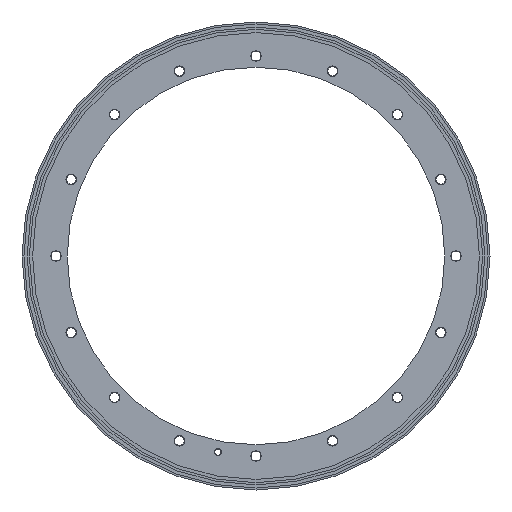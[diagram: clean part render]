
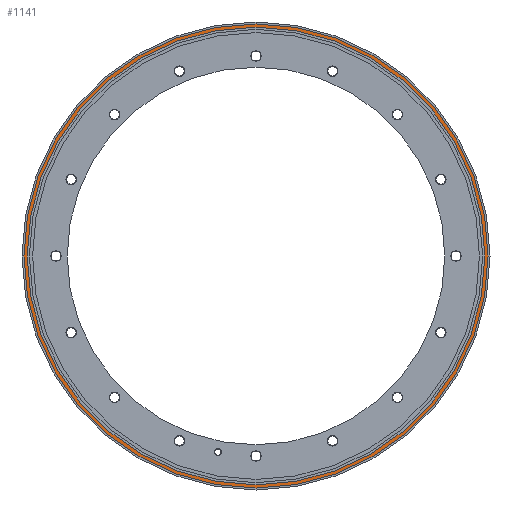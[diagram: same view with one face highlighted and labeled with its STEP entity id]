
A CAD part, front view. The second image highlights one B-rep face of the part: STEP entity #1141.
In plain terms, the highlighted planar face has unit normal (0, -1, 0).
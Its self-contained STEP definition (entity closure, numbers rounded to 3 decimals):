
#31 = ORIENTED_EDGE ( 'NONE', *, *, #7684, .T. ) ;
#133 = DIRECTION ( 'NONE',  ( 0., 0., -1. ) ) ;
#884 = ORIENTED_EDGE ( 'NONE', *, *, #5670, .F. ) ;
#1141 = ADVANCED_FACE ( 'NONE', ( #5465, #1165 ), #10622, .T. ) ;
#1165 = FACE_BOUND ( 'NONE', #9561, .T. ) ;
#1457 = CARTESIAN_POINT ( 'NONE',  ( -76.85, 0.4, -94.45 ) ) ;
#1610 = ORIENTED_EDGE ( 'NONE', *, *, #1862, .T. ) ;
#1646 = ORIENTED_EDGE ( 'NONE', *, *, #5358, .F. ) ;
#1669 = AXIS2_PLACEMENT_3D ( 'NONE', #9533, #9597, #10318 ) ;
#1862 = EDGE_CURVE ( 'NONE', #4450, #3348, #9135, .T. ) ;
#2043 = CARTESIAN_POINT ( 'NONE',  ( -76.85, 0.4, 0. ) ) ;
#3348 = VERTEX_POINT ( 'NONE', #1457 ) ;
#3433 = CARTESIAN_POINT ( 'NONE',  ( -76.85, 0.4, 93.15 ) ) ;
#3726 = CIRCLE ( 'NONE', #7497, 94.45 ) ;
#3868 = DIRECTION ( 'NONE',  ( 0., -1., 0. ) ) ;
#4450 = VERTEX_POINT ( 'NONE', #6908 ) ;
#4665 = AXIS2_PLACEMENT_3D ( 'NONE', #10754, #4758, #10870 ) ;
#4681 = DIRECTION ( 'NONE',  ( 0., -1., 0. ) ) ;
#4758 = DIRECTION ( 'NONE',  ( 0., -1., 0. ) ) ;
#5358 = EDGE_CURVE ( 'NONE', #11054, #6516, #10838, .T. ) ;
#5465 = FACE_OUTER_BOUND ( 'NONE', #10860, .T. ) ;
#5670 = EDGE_CURVE ( 'NONE', #6516, #11054, #10117, .T. ) ;
#6122 = CARTESIAN_POINT ( 'NONE',  ( -76.85, 0.4, 0. ) ) ;
#6170 = AXIS2_PLACEMENT_3D ( 'NONE', #8944, #4681, #6688 ) ;
#6516 = VERTEX_POINT ( 'NONE', #3433 ) ;
#6688 = DIRECTION ( 'NONE',  ( 0., 0., -1. ) ) ;
#6908 = CARTESIAN_POINT ( 'NONE',  ( -76.85, 0.4, 94.45 ) ) ;
#7208 = CARTESIAN_POINT ( 'NONE',  ( -76.85, 0.4, -93.15 ) ) ;
#7497 = AXIS2_PLACEMENT_3D ( 'NONE', #6122, #9546, #133 ) ;
#7684 = EDGE_CURVE ( 'NONE', #3348, #4450, #3726, .T. ) ;
#8944 = CARTESIAN_POINT ( 'NONE',  ( 16.3, 0.4, 0. ) ) ;
#9135 = CIRCLE ( 'NONE', #4665, 94.45 ) ;
#9216 = AXIS2_PLACEMENT_3D ( 'NONE', #2043, #3868, #9877 ) ;
#9533 = CARTESIAN_POINT ( 'NONE',  ( -76.85, 0.4, 0. ) ) ;
#9546 = DIRECTION ( 'NONE',  ( 0., -1., 0. ) ) ;
#9561 = EDGE_LOOP ( 'NONE', ( #1646, #884 ) ) ;
#9597 = DIRECTION ( 'NONE',  ( 0., -1., 0. ) ) ;
#9877 = DIRECTION ( 'NONE',  ( 0., 0., -1. ) ) ;
#10117 = CIRCLE ( 'NONE', #1669, 93.15 ) ;
#10318 = DIRECTION ( 'NONE',  ( 0., 0., -1. ) ) ;
#10622 = PLANE ( 'NONE',  #6170 ) ;
#10754 = CARTESIAN_POINT ( 'NONE',  ( -76.85, 0.4, 0. ) ) ;
#10838 = CIRCLE ( 'NONE', #9216, 93.15 ) ;
#10860 = EDGE_LOOP ( 'NONE', ( #31, #1610 ) ) ;
#10870 = DIRECTION ( 'NONE',  ( 0., 0., -1. ) ) ;
#11054 = VERTEX_POINT ( 'NONE', #7208 ) ;
